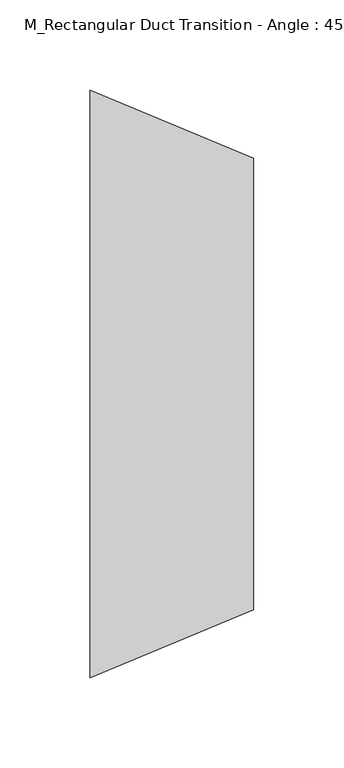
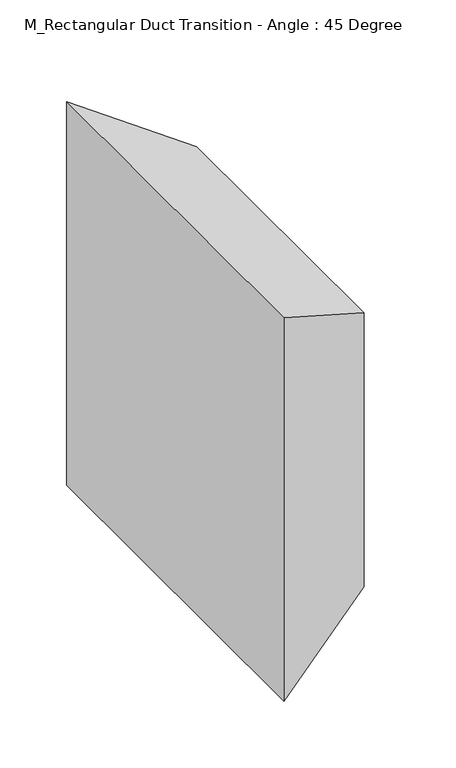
"""IFC4 building model written with IfcOpenShell, lengths in millimetres: duct fitting geometry, M_Rectangular Duct Transition - Angle : 45 Degree."""

from ifc_helpers import new_model, si_unit, origin, place, context, project, spatial, faceted_brep, source, transform, mapped, element, save


def m_rectangular_duct_transition_angle_45_degree_cab7309d(model_context):
    return source(origin(), model_context, "Body", "Brep", [
        faceted_brep([(90.5330086, -125.0, 125.0), (90.5330086, -125.0, -125.0), (90.5330086, 125.0, -125.0), (90.5330086, 125.0, 125.0), (0.0, -162.5, 175.0), (0.0, 162.5, 175.0), (0.0, 162.5, -175.0), (0.0, -162.5, -175.0)], [[[0, 1, 2, 3]], [[4, 5, 6, 7]], [[4, 7, 1, 0]], [[7, 6, 2, 1]], [[6, 5, 3, 2]], [[5, 4, 0, 3]]]),
        faceted_brep([(90.5330086, -125.0, 125.0), (90.5330086, -125.0, -125.0), (90.5330086, 125.0, -125.0), (90.5330086, 125.0, 125.0), (0.0, -162.5, 175.0), (0.0, 162.5, 175.0), (0.0, 162.5, -175.0), (0.0, -162.5, -175.0)], [[[0, 1, 2, 3]], [[4, 5, 6, 7]], [[4, 7, 1, 0]], [[7, 6, 2, 1]], [[6, 5, 3, 2]], [[5, 4, 0, 3]]]),
        faceted_brep([(90.5330086, -125.0, 125.0), (90.5330086, -125.0, -125.0), (90.5330086, 125.0, -125.0), (90.5330086, 125.0, 125.0), (0.0, -162.5, 175.0), (0.0, 162.5, 175.0), (0.0, 162.5, -175.0), (0.0, -162.5, -175.0)], [[[0, 1, 2, 3]], [[4, 5, 6, 7]], [[4, 7, 1, 0]], [[7, 6, 2, 1]], [[6, 5, 3, 2]], [[5, 4, 0, 3]]]),
    ])


if __name__ == "__main__":
    model = new_model("IFC4")
    model_context = context("Model", 3, world=origin())
    ifc_project = project(units=[si_unit("LENGTHUNIT", "METRE", prefix="MILLI")], contexts=[model_context])
    site = spatial("IfcSite", under=ifc_project)
    building = spatial("IfcBuilding", under=site)
    placement = place(None, origin())
    m_rectangular_duct_transition_angle_45_degree_shape = m_rectangular_duct_transition_angle_45_degree_cab7309d(model_context)
    element("IfcDuctFitting", 1, ObjectType="M_Rectangular Duct Transition - Angle : 45 Degree", at=placement, inside=building, context=model_context, shape_type="MappedRepresentation", body=[
        mapped(m_rectangular_duct_transition_angle_45_degree_shape, transform((0.0, 0.0, 0.0), x_axis=(1.0, 0.0, 0.0), y_axis=(0.0, 1.0, 0.0), z_axis=(0.0, 0.0, 1.0))),
    ])
    save(model, "model.ifc")
